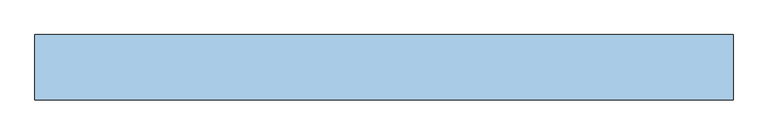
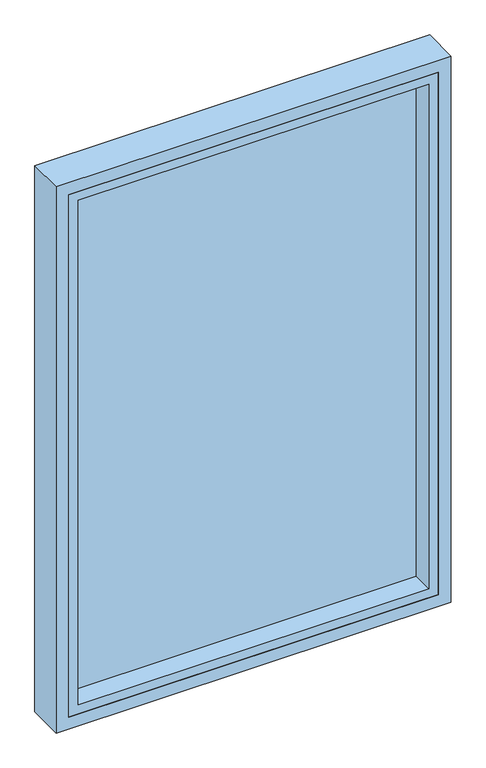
"""IFC4 building model written with IfcOpenShell, lengths in millimetres: window geometry, Reynaers_MasterLine 10_Window_Fixed_Single Vent : Reynaers_MasterLine 10_Window_Fixed_Single Vent."""

from ifc_helpers import new_model, si_unit, frame, origin, place, context, project, spatial, polyline, outline, extrude, faceted_brep, source, transform, mapped, element, save


def window_dae34335(model_context):
    return source(origin(), model_context, "Body", "SolidModel", [
        faceted_brep([(520.0, -87.2, 800.0), (520.0, 9.8, 800.0), (520.0, 9.8, 2320.0), (520.0, -87.2, 2320.0), (460.0, 9.8, 860.0), (460.0, 5.8, 860.0), (460.0, 5.8, 2260.0), (460.0, 9.8, 2260.0), (-520.0, 9.8, 2320.0), (-520.0, -87.2, 2320.0), (-460.0, 5.8, 2260.0), (-460.0, 9.8, 2260.0), (-520.0, 9.8, 800.0), (-520.0, -87.2, 800.0), (-460.0, 5.8, 860.0), (-460.0, 9.8, 860.0), (487.0, -87.2, 833.0), (-487.0, -87.2, 833.0), (-487.0, -87.2, 2287.0), (487.0, -87.2, 2287.0), (487.0, 5.8, 2287.0), (-487.0, 5.8, 2287.0), (-487.0, 5.8, 833.0), (487.0, 5.8, 833.0)], [[[0, 1, 2, 3]], [[4, 5, 6, 7]], [[3, 2, 8, 9]], [[7, 6, 10, 11]], [[9, 8, 12, 13]], [[11, 10, 14, 15]], [[1, 12, 8, 2], [7, 11, 15, 4]], [[13, 12, 1, 0]], [[3, 9, 13, 0], [16, 17, 18, 19]], [[15, 14, 5, 4]], [[20, 19, 18, 21]], [[21, 18, 17, 22]], [[22, 17, 16, 23]], [[23, 16, 19, 20]], [[21, 22, 23, 20], [6, 5, 14, 10]]]),
        extrude(outline(polyline([(2287.0, -487.0), (833.0, -487.0), (833.0, 487.0), (2287.0, 487.0), (2287.0, -487.0)]), holes=[polyline([(2262.0, 462.0), (858.0, 462.0), (858.0, -462.0), (2262.0, -462.0), (2262.0, 462.0)])]), frame((0.0, -87.2, 0.0), z_axis=(0.0, 1.0, 0.0), x_axis=(0.0, 0.0, 1.0)), (0.0, 0.0, 1.0), 57.0),
        extrude(outline(polyline([(479.0, -25.2), (-479.0, -25.2), (-479.0, 1.8), (479.0, 1.8), (479.0, -25.2)])), frame((0.0, 0.0, 841.0), z_axis=(0.0, 0.0, 1.0), x_axis=(1.0, 0.0, 0.0)), (0.0, 0.0, 1.0), 1438.0),
    ])


if __name__ == "__main__":
    model = new_model("IFC4")
    model_context = context("Model", 3, world=origin())
    ifc_project = project(units=[si_unit("LENGTHUNIT", "METRE", prefix="MILLI")], contexts=[model_context])
    site = spatial("IfcSite", under=ifc_project)
    building = spatial("IfcBuilding", under=site)
    placement = place(None, origin())
    window_shape = window_dae34335(model_context)
    element("IfcWindow", 1, ObjectType="Reynaers_MasterLine 10_Window_Fixed_Single Vent : Reynaers_MasterLine 10_Window_Fixed_Single Vent", at=placement, inside=building, context=model_context, shape_type="MappedRepresentation", body=[
        mapped(window_shape, transform((0.0, 0.0, 0.0), x_axis=(1.0, 0.0, 0.0), y_axis=(0.0, 1.0, 0.0), z_axis=(0.0, 0.0, 1.0))),
    ])
    save(model, "model.ifc")
